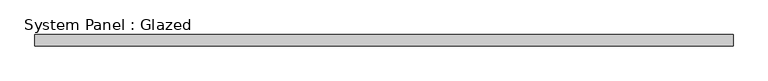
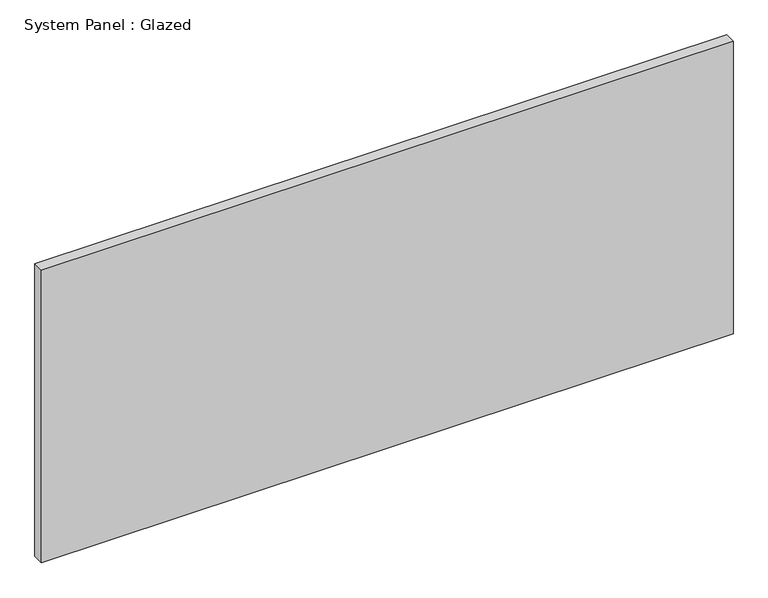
"""IFC4 building model written with IfcOpenShell, lengths in millimetres: plate geometry, System Panel : Glazed."""

from ifc_helpers import new_model, si_unit, origin, origin_with_axes, place, context, project, spatial, polyline, outline, extrude, source, transform, mapped, element, save


def system_panel_glazed_3d3406e4(model_context):
    return source(origin(), model_context, "Body", "SweptSolid", [
        extrude(outline(polyline([(774.7, 19.05), (-774.7, 19.05), (-774.7, 44.45), (774.7, 44.45), (774.7, 19.05)])), origin_with_axes(), (0.0, 0.0, 1.0), 692.15),
    ])


if __name__ == "__main__":
    model = new_model("IFC4")
    model_context = context("Model", 3, world=origin())
    ifc_project = project(units=[si_unit("LENGTHUNIT", "METRE", prefix="MILLI")], contexts=[model_context])
    site = spatial("IfcSite", under=ifc_project)
    building = spatial("IfcBuilding", under=site)
    placement = place(None, origin())
    system_panel_glazed_shape = system_panel_glazed_3d3406e4(model_context)
    element("IfcPlate", 1, ObjectType="System Panel : Glazed", at=placement, inside=building, context=model_context, shape_type="MappedRepresentation", body=[
        mapped(system_panel_glazed_shape, transform((0.0, 0.0, 0.0), x_axis=(1.0, 0.0, 0.0), y_axis=(0.0, 1.0, 0.0), z_axis=(0.0, 0.0, 1.0))),
    ])
    save(model, "model.ifc")
